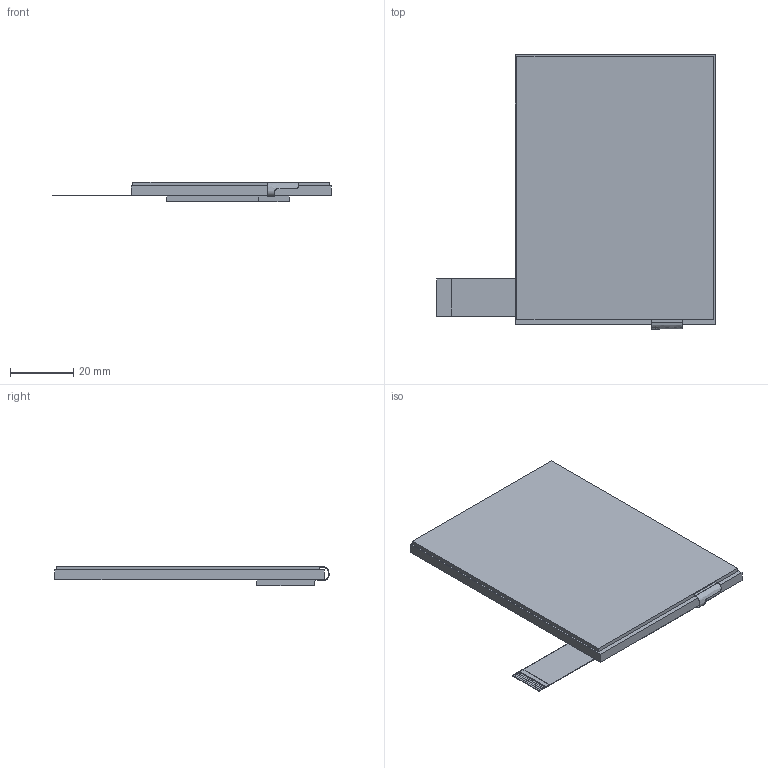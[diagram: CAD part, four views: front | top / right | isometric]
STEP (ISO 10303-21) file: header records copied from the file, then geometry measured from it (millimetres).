
FILE_DESCRIPTION (( 'STEP AP203' ), '1' );
FILE_NAME ('CFAF480640B035TTS.STEP', '2015-05-04T17:30:17', ( 'brian' ), ( 'Crystalfontz America, Inc.' ), 'SwSTEP 2.0', 'SolidWorks 2015', '' );
FILE_SCHEMA (( 'CONFIG_CONTROL_DESIGN' ));
Length unit declared in the file: millimetre
Products named in the file (1): CFAF480640B035TTS
Bounding box: 88.5 x 87 x 6.33 mm (x, y, z)
Volume: 23869.5 mm3; surface area: 24900.3 mm2
Topology: 43 solids, 44 shells, 550 faces, 1377 edges, 918 vertices
Faces by surface type: plane 536, cylinder 12, bspline 2
Entity records: 16232 total; most frequent: CARTESIAN_POINT 3036, ORIENTED_EDGE 2754, DIRECTION 2483, EDGE_CURVE 1377, VECTOR 1345, LINE 1345, VERTEX_POINT 918, AXIS2_PLACEMENT_3D 569
